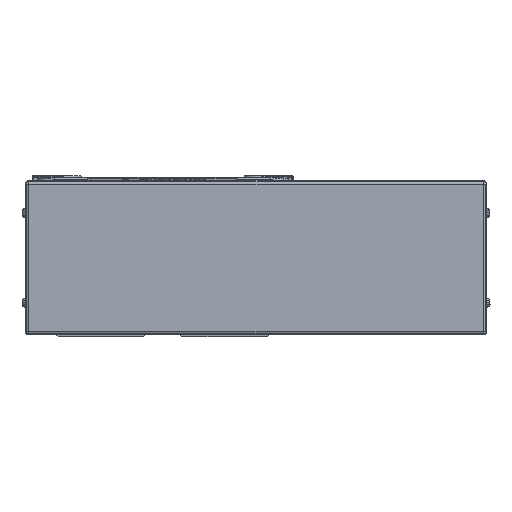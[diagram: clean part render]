
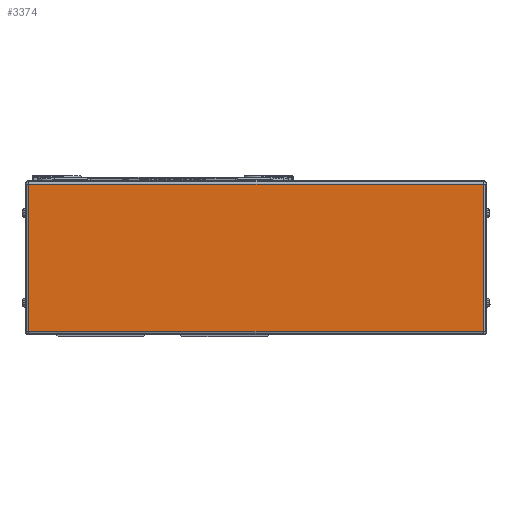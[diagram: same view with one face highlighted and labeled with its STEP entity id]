
A CAD part, left-side view. The second image highlights one B-rep face of the part: STEP entity #3374.
In plain terms, the highlighted planar face has unit normal (-1, 0, 0).
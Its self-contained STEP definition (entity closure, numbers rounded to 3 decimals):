
#3374=ADVANCED_FACE('',(#8172),#8173,.T.);
#8172=FACE_OUTER_BOUND('',#15136,.T.);
#8173=PLANE('',#15137);
#15136=EDGE_LOOP('',(#25336,#25337,#25338,#25339));
#15137=AXIS2_PLACEMENT_3D('',#25340,#25341,#25342);
#25336=ORIENTED_EDGE('',*,*,#39528,.F.);
#25337=ORIENTED_EDGE('',*,*,#41899,.F.);
#25338=ORIENTED_EDGE('',*,*,#41900,.F.);
#25339=ORIENTED_EDGE('',*,*,#41901,.F.);
#25340=CARTESIAN_POINT('',(-45.,-180.5,0.));
#25341=DIRECTION('',(-1.0,0.,0.));
#25342=DIRECTION('',(0.,0.,1.0));
#39528=EDGE_CURVE('',#46920,#46922,#46923,.T.);
#41899=EDGE_CURVE('',#50962,#46920,#50963,.T.);
#41900=EDGE_CURVE('',#50258,#50962,#50964,.T.);
#41901=EDGE_CURVE('',#46922,#50258,#50965,.T.);
#46920=VERTEX_POINT('',#57556);
#46922=VERTEX_POINT('',#57558);
#46923=LINE('',#57559,#57560);
#50258=VERTEX_POINT('',#61897);
#50962=VERTEX_POINT('',#62854);
#50963=LINE('',#62855,#62856);
#50964=LINE('',#62857,#62858);
#50965=LINE('',#62859,#62860);
#57556=CARTESIAN_POINT('',(-45.,-178.5,41.));
#57558=CARTESIAN_POINT('',(-45.,-178.5,-41.));
#57559=CARTESIAN_POINT('',(-45.,-178.5,0.));
#57560=VECTOR('',#71821,10.0);
#61897=CARTESIAN_POINT('',(-45.,74.5,-41.));
#62854=CARTESIAN_POINT('',(-45.,74.5,41.));
#62855=CARTESIAN_POINT('',(-45.,-180.5,41.));
#62856=VECTOR('',#75320,10.0);
#62857=CARTESIAN_POINT('',(-45.,74.5,0.));
#62858=VECTOR('',#75321,10.0);
#62859=CARTESIAN_POINT('',(-45.,-180.5,-41.));
#62860=VECTOR('',#75322,10.0);
#71821=DIRECTION('',(0.,0.,-1.0));
#75320=DIRECTION('',(0.,-1.0,0.));
#75321=DIRECTION('',(0.,0.,1.0));
#75322=DIRECTION('',(0.,1.0,0.));
